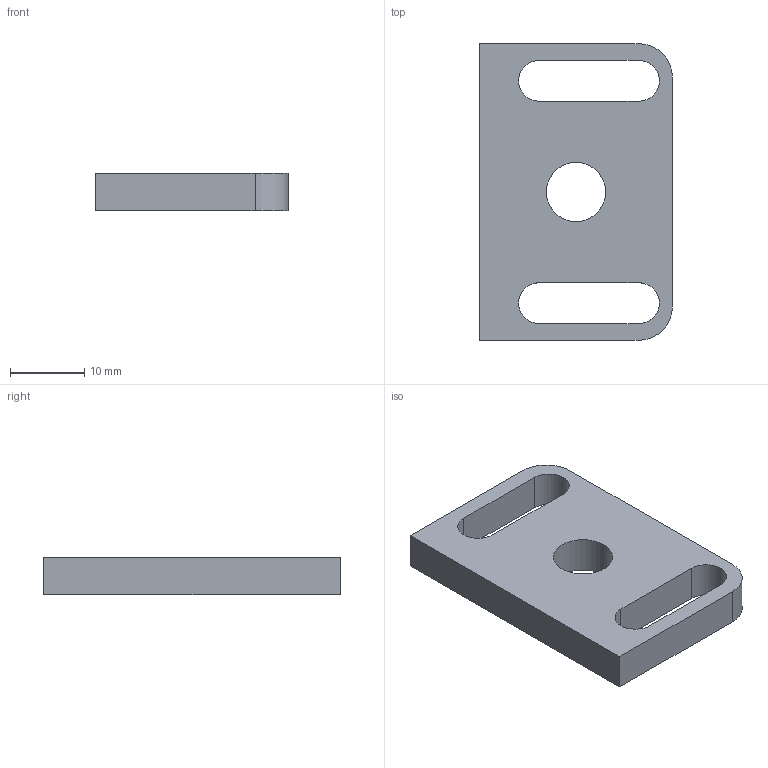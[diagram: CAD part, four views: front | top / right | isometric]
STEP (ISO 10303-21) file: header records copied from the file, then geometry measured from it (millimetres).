
FILE_DESCRIPTION( ( '' ), '1' );
FILE_NAME( '//partserver001.servicenet/client_exchange/iodir/jobs/output/wkb18252281_no8/STEP/e10585_2_03.stp', '2009-08-26T07:41:04', ( '' ), ( '' ), ' ', ' ', ' ' );
FILE_SCHEMA( ( 'CONFIG_CONTROL_DESIGN' ) );
Length unit declared in the file: millimetre
Products named in the file (1): 1
Bounding box: 26 x 40 x 5 mm (x, y, z)
Volume: 3925.1 mm3; surface area: 2779.2 mm2
Topology: 1 solids, 1 shells, 18 faces, 48 edges, 32 vertices
Faces by surface type: plane 10, cylinder 8
Entity records: 624 total; most frequent: DIRECTION 102, CARTESIAN_POINT 99, ORIENTED_EDGE 96, EDGE_CURVE 48, AXIS2_PLACEMENT_3D 35, VERTEX_POINT 32, LINE 32, VECTOR 32
